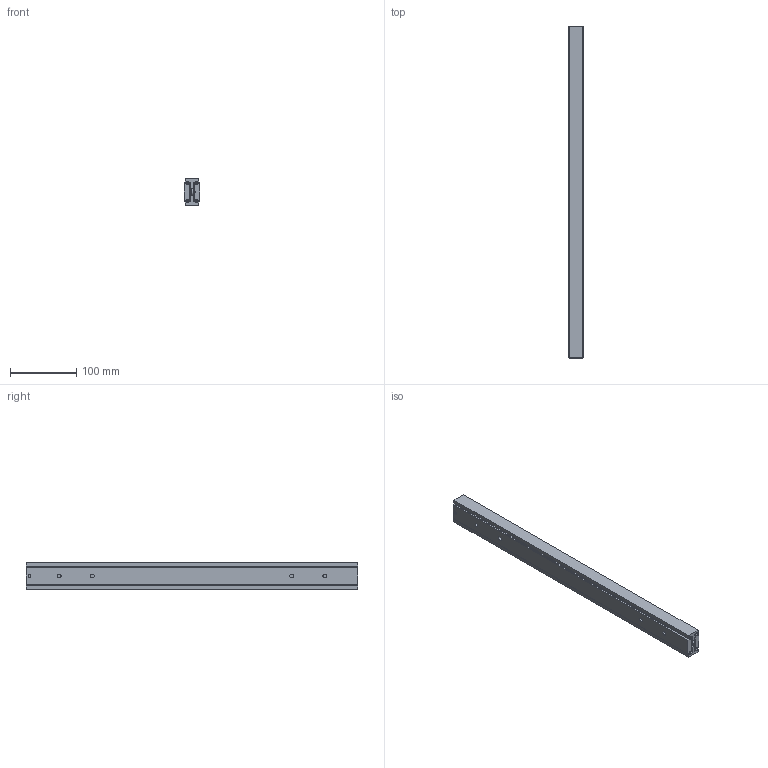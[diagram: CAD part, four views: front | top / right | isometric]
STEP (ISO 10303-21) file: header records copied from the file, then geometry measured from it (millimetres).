
FILE_DESCRIPTION(/* description */ (''),/* implementation_level */ '2;1');
FILE_NAME(/* name */ 'C:\Users\Miluxor\Desktop\Miluxor Schienen\Original Zeichnungen\Zeichnungen Schienen Komplett\MX-DTP40\MX-DTP40.050\MX-DTP40.050_eingefahren.stp',/* time_stamp */ '2020-11-23T16:24:27+01:00',/* author */ ('Miluxor'),/* organization */ (''),/* preprocessor_version */ 'ST-DEVELOPER v16.13',/* originating_system */ 'AutoCAD Mechanical',/* authorisation */ '');
FILE_SCHEMA (('AUTOMOTIVE_DESIGN { 1 0 10303 214 3 1 1 }'));
Length unit declared in the file: millimetre
Products named in the file (1): Product
Bounding box: 24 x 500 x 40 mm (x, y, z)
Volume: 375992.1 mm3; surface area: 185415.6 mm2
Topology: 53 solids, 53 shells, 324 faces, 822 edges, 544 vertices
Faces by surface type: plane 224, cylinder 54, sphere 32, bspline 8, torus 6
Full cylindrical faces by diameter (mm): 6 x40, 10 x2
Entity records: 14881 total; most frequent: CARTESIAN_POINT 7263, DIRECTION 1480, ORIENTED_EDGE 1416, EDGE_CURVE 708, LINE 546, VECTOR 546, VERTEX_POINT 542, AXIS2_PLACEMENT_3D 467
